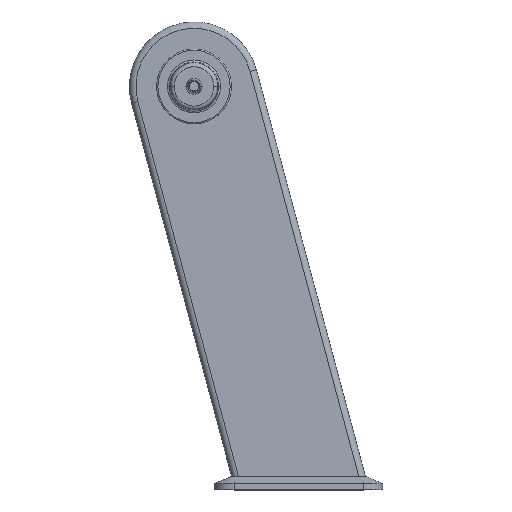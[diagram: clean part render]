
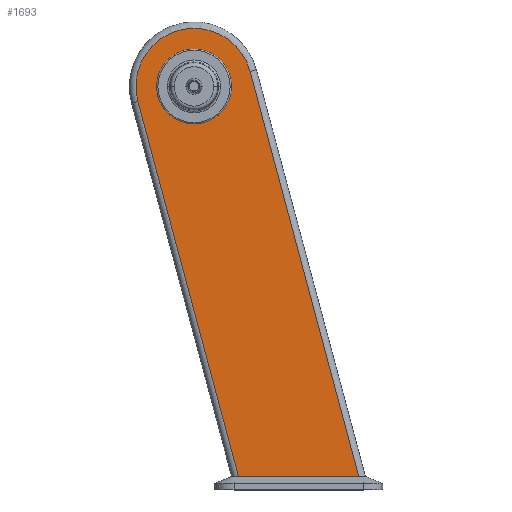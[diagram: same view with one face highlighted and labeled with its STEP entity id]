
A CAD part, top view. The second image highlights one B-rep face of the part: STEP entity #1693.
In plain terms, the highlighted planar face has unit normal (0, 0, 1).
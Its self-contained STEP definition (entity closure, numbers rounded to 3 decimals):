
#25 = VERTEX_POINT ( 'NONE', #30 ) ;
#30 = CARTESIAN_POINT ( 'NONE',  ( -58., 0., 31.25 ) ) ;
#80 = DIRECTION ( 'NONE',  ( 0.259, -0.966, 0. ) ) ;
#118 = ORIENTED_EDGE ( 'NONE', *, *, #1768, .T. ) ;
#139 = AXIS2_PLACEMENT_3D ( 'NONE', #502, #1836, #695 ) ;
#165 = CIRCLE ( 'NONE', #2440, 58. ) ;
#261 = FACE_OUTER_BOUND ( 'NONE', #1944, .T. ) ;
#336 = CARTESIAN_POINT ( 'NONE',  ( 0., 0., 31.25 ) ) ;
#383 = DIRECTION ( 'NONE',  ( 1., 0., 0. ) ) ;
#412 = CARTESIAN_POINT ( 'NONE',  ( 86.933, 23.294, 31.25 ) ) ;
#421 = ORIENTED_EDGE ( 'NONE', *, *, #1254, .F. ) ;
#448 = DIRECTION ( 'NONE',  ( 0., 0., 1. ) ) ;
#452 = EDGE_CURVE ( 'NONE', #1048, #1316, #1954, .T. ) ;
#502 = CARTESIAN_POINT ( 'NONE',  ( 0., 0., 31.25 ) ) ;
#527 = DIRECTION ( 'NONE',  ( 1., 0., 0. ) ) ;
#638 = CARTESIAN_POINT ( 'NONE',  ( -86.933, -23.294, 31.25 ) ) ;
#695 = DIRECTION ( 'NONE',  ( 1., 0., 0. ) ) ;
#705 = FACE_BOUND ( 'NONE', #936, .T. ) ;
#709 = CIRCLE ( 'NONE', #934, 58. ) ;
#735 = CARTESIAN_POINT ( 'NONE',  ( 68.934, -605., 31.25 ) ) ;
#773 = CARTESIAN_POINT ( 'NONE',  ( 58., 0., 31.25 ) ) ;
#779 = EDGE_CURVE ( 'NONE', #859, #937, #2134, .T. ) ;
#859 = VERTEX_POINT ( 'NONE', #2483 ) ;
#866 = VECTOR ( 'NONE', #80, 1000. ) ;
#896 = ORIENTED_EDGE ( 'NONE', *, *, #1050, .F. ) ;
#934 = AXIS2_PLACEMENT_3D ( 'NONE', #336, #1671, #527 ) ;
#936 = EDGE_LOOP ( 'NONE', ( #896, #421 ) ) ;
#937 = VERTEX_POINT ( 'NONE', #412 ) ;
#975 = CARTESIAN_POINT ( 'NONE',  ( 86.933, 23.294, 31.25 ) ) ;
#992 = ORIENTED_EDGE ( 'NONE', *, *, #1976, .T. ) ;
#1048 = VERTEX_POINT ( 'NONE', #638 ) ;
#1050 = EDGE_CURVE ( 'NONE', #2304, #25, #165, .T. ) ;
#1128 = VECTOR ( 'NONE', #383, 1000. ) ;
#1248 = CARTESIAN_POINT ( 'NONE',  ( 73.6, -622.412, 31.25 ) ) ;
#1254 = EDGE_CURVE ( 'NONE', #25, #2304, #709, .T. ) ;
#1316 = VERTEX_POINT ( 'NONE', #735 ) ;
#1346 = CARTESIAN_POINT ( 'NONE',  ( 0., -605., 31.25 ) ) ;
#1366 = AXIS2_PLACEMENT_3D ( 'NONE', #1426, #1802, #1808 ) ;
#1426 = CARTESIAN_POINT ( 'NONE',  ( 0., 0., 31.25 ) ) ;
#1551 = CIRCLE ( 'NONE', #139, 90. ) ;
#1598 = CARTESIAN_POINT ( 'NONE',  ( 0., 0., 31.25 ) ) ;
#1617 = PLANE ( 'NONE',  #1366 ) ;
#1671 = DIRECTION ( 'NONE',  ( 0., 0., 1. ) ) ;
#1690 = LINE ( 'NONE', #1346, #1128 ) ;
#1693 = ADVANCED_FACE ( 'NONE', ( #261, #705 ), #1617, .T. ) ;
#1768 = EDGE_CURVE ( 'NONE', #937, #1048, #1551, .T. ) ;
#1785 = DIRECTION ( 'NONE',  ( 1., 0., 0. ) ) ;
#1802 = DIRECTION ( 'NONE',  ( 0., 0., 1. ) ) ;
#1808 = DIRECTION ( 'NONE',  ( 1., 0., 0. ) ) ;
#1836 = DIRECTION ( 'NONE',  ( 0., 0., 1. ) ) ;
#1944 = EDGE_LOOP ( 'NONE', ( #2141, #992, #2369, #118 ) ) ;
#1954 = LINE ( 'NONE', #1248, #866 ) ;
#1976 = EDGE_CURVE ( 'NONE', #1316, #859, #1690, .T. ) ;
#2058 = VECTOR ( 'NONE', #2122, 1000. ) ;
#2122 = DIRECTION ( 'NONE',  ( -0.259, 0.966, 0. ) ) ;
#2134 = LINE ( 'NONE', #975, #2058 ) ;
#2141 = ORIENTED_EDGE ( 'NONE', *, *, #452, .T. ) ;
#2304 = VERTEX_POINT ( 'NONE', #773 ) ;
#2369 = ORIENTED_EDGE ( 'NONE', *, *, #779, .T. ) ;
#2440 = AXIS2_PLACEMENT_3D ( 'NONE', #1598, #448, #1785 ) ;
#2483 = CARTESIAN_POINT ( 'NONE',  ( 255.284, -605., 31.25 ) ) ;
